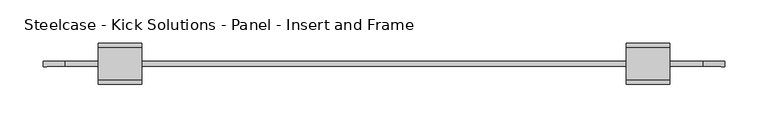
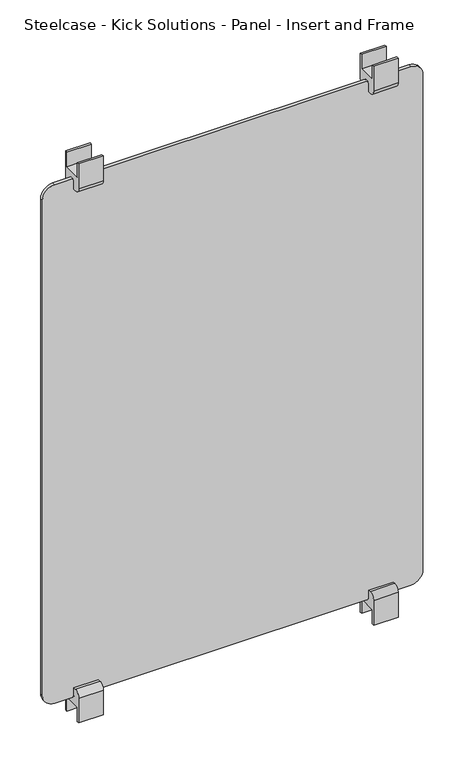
"""IFC4 building model written with IfcOpenShell, lengths in millimetres: furniture geometry, Steelcase - Kick Solutions - Panel - Insert and Frame : Laminate - 54H x 36W."""

from ifc_helpers import new_model, si_unit, point, frame, frame_2d, origin, place, context, project, spatial, polyline, circle_curve, trimmed, segment, composite_curve, outline, extrude, source, transform, mapped, element, save


def steelcase_kick_solutions_panel_insert_and_frame_3cdca3f0(model_context):
    return source(origin(), model_context, "Body", "SweptSolid", [
        extrude(outline(composite_curve([segment(polyline([(5.3821989, 1346.2), (10.144699, 1346.2), (10.144699, 1291.513221)]), True, "CONTINUOUS"), segment(trimmed(circle_curve(frame_2d((-1.6831687, 1291.513221)), 11.8278677), [point((10.144699, 1291.513221))], [point((-1.6831687, 1279.6853533))], False, "CARTESIAN"), True, "CONTINUOUS"), segment(polyline([(-1.6831687, 1279.6853533), (-7.3178012, 1279.6853533), (-7.3178012, 1295.0857521)]), True, "CONTINUOUS"), segment(trimmed(circle_curve(frame_2d((-13.667801, 1295.0857521)), 6.3499998), [point((-7.3178012, 1295.0857521))], [point((-20.0178007, 1295.0857521))], True, "CARTESIAN"), True, "CONTINUOUS"), segment(polyline([(-20.0178007, 1295.0857521), (-20.0178007, 1279.6853527), (-25.2074988, 1279.6853527)]), True, "CONTINUOUS"), segment(trimmed(circle_curve(frame_2d((-25.2074988, 1291.9581549)), 12.2728022), [point((-25.2074988, 1279.6853527))], [point((-37.480301, 1291.9581549))], False, "CARTESIAN"), True, "CONTINUOUS"), segment(polyline([(-37.480301, 1291.9581549), (-37.480301, 1346.2), (-32.7177988, 1346.2), (-32.7177988, 1314.4499758), (5.3821989, 1314.4499758), (5.3821989, 1346.2)]), True, "CONTINUOUS")], self_intersect=False)), frame((737.5148583, 0.0, 0.0), z_axis=(1.0, 0.0, 0.0), x_axis=(0.0, 1.0, 0.0)), (0.0, 0.0, 1.0), 50.8),
        extrude(outline(composite_curve([segment(polyline([(5.3821989, 120.6499576), (5.3821989, 152.3999815), (-32.7177988, 152.3999815), (-32.7177988, 120.6499576), (-37.480301, 120.6499576), (-37.480301, 174.8918024)]), True, "CONTINUOUS"), segment(trimmed(circle_curve(frame_2d((-25.2074988, 174.8918024)), 12.2728022), [point((-37.480301, 174.8918024))], [point((-25.2074988, 187.1646046))], False, "CARTESIAN"), True, "CONTINUOUS"), segment(polyline([(-25.2074988, 187.1646046), (-20.0178007, 187.1646046), (-20.0178007, 171.7642058)]), True, "CONTINUOUS"), segment(trimmed(circle_curve(frame_2d((-13.667801, 171.7642058)), 6.3499998), [point((-20.0178007, 171.7642058))], [point((-7.3178012, 171.7642058))], True, "CARTESIAN"), True, "CONTINUOUS"), segment(polyline([(-7.3178012, 171.7642058), (-7.3178012, 187.1646046), (-1.6831687, 187.1646046)]), True, "CONTINUOUS"), segment(trimmed(circle_curve(frame_2d((-1.6831687, 175.3367369)), 11.8278677), [point((-1.6831687, 187.1646046))], [point((10.144699, 175.3367369))], False, "CARTESIAN"), True, "CONTINUOUS"), segment(polyline([(10.144699, 175.3367369), (10.144699, 120.6499576), (5.3821989, 120.6499576)]), True, "CONTINUOUS")], self_intersect=False)), frame((737.5148583, 0.0, 0.0), z_axis=(1.0, 0.0, 0.0), x_axis=(0.0, 1.0, 0.0)), (0.0, 0.0, 1.0), 50.8),
        extrude(outline(composite_curve([segment(polyline([(5.3821989, 1346.2), (10.144699, 1346.2), (10.144699, 1291.5132204)]), True, "CONTINUOUS"), segment(trimmed(circle_curve(frame_2d((-1.6831684, 1291.5132204)), 11.8278674), [point((10.144699, 1291.5132204))], [point((-1.6831684, 1279.685353))], False, "CARTESIAN"), True, "CONTINUOUS"), segment(polyline([(-1.6831684, 1279.685353), (-7.3178009, 1279.685353), (-7.3178009, 1295.0857521)]), True, "CONTINUOUS"), segment(trimmed(circle_curve(frame_2d((-13.667801, 1295.0857521)), 6.3500001), [point((-7.3178009, 1295.0857521))], [point((-20.017801, 1295.0857521))], True, "CARTESIAN"), True, "CONTINUOUS"), segment(polyline([(-20.017801, 1295.0857521), (-20.017801, 1279.685353), (-25.2074991, 1279.685353)]), True, "CONTINUOUS"), segment(trimmed(circle_curve(frame_2d((-25.2074991, 1291.9581549)), 12.2728019), [point((-25.2074991, 1279.685353))], [point((-37.480301, 1291.9581549))], False, "CARTESIAN"), True, "CONTINUOUS"), segment(polyline([(-37.480301, 1291.9581549), (-37.480301, 1346.2), (-32.7177988, 1346.2), (-32.7177988, 1314.4499758), (5.3821989, 1314.4499758), (5.3821989, 1346.2)]), True, "CONTINUOUS")], self_intersect=False)), frame((126.0851417, 0.0, 0.0), z_axis=(1.0, 0.0, 0.0), x_axis=(0.0, 1.0, 0.0)), (0.0, 0.0, 1.0), 50.8),
        extrude(outline(composite_curve([segment(polyline([(5.3821989, 120.6499576), (5.3821989, 152.3999818), (-32.7177988, 152.3999818), (-32.7177988, 120.6499576), (-37.480301, 120.6499576), (-37.480301, 174.8918027)]), True, "CONTINUOUS"), segment(trimmed(circle_curve(frame_2d((-25.2074991, 174.8918027)), 12.2728019), [point((-37.480301, 174.8918027))], [point((-25.2074991, 187.1646046))], False, "CARTESIAN"), True, "CONTINUOUS"), segment(polyline([(-25.2074991, 187.1646046), (-20.017801, 187.1646046), (-20.017801, 171.7642055)]), True, "CONTINUOUS"), segment(trimmed(circle_curve(frame_2d((-13.667801, 171.7642055)), 6.3500001), [point((-20.017801, 171.7642055))], [point((-7.3178009, 171.7642055))], True, "CARTESIAN"), True, "CONTINUOUS"), segment(polyline([(-7.3178009, 171.7642055), (-7.3178009, 187.1646041), (-1.6831684, 187.1646041)]), True, "CONTINUOUS"), segment(trimmed(circle_curve(frame_2d((-1.6831684, 175.3367366)), 11.8278674), [point((-1.6831684, 187.1646041))], [point((10.144699, 175.3367366))], False, "CARTESIAN"), True, "CONTINUOUS"), segment(polyline([(10.144699, 175.3367366), (10.144699, 120.6499576), (5.3821989, 120.6499576)]), True, "CONTINUOUS")], self_intersect=False)), frame((126.0851417, 0.0, 0.0), z_axis=(1.0, 0.0, 0.0), x_axis=(0.0, 1.0, 0.0)), (0.0, 0.0, 1.0), 50.8),
        extrude(outline(composite_curve([segment(polyline([(1301.7499516, 826.4148583), (1301.7499516, 87.9851417)]), True, "CONTINUOUS"), segment(trimmed(circle_curve(frame_2d((1276.3499516, 87.9851417)), 25.4), [point((1301.7499516, 87.9851417))], [point((1276.3499516, 62.5851417))], False, "CARTESIAN"), True, "CONTINUOUS"), segment(polyline([(1276.3499516, 62.5851417), (190.5000061, 62.5851417)]), True, "CONTINUOUS"), segment(trimmed(circle_curve(frame_2d((190.5000061, 87.9851417)), 25.4), [point((190.5000061, 62.5851417))], [point((165.1000061, 87.9851417))], False, "CARTESIAN"), True, "CONTINUOUS"), segment(polyline([(165.1000061, 87.9851417), (165.1000061, 826.4148583)]), True, "CONTINUOUS"), segment(trimmed(circle_curve(frame_2d((190.5000061, 826.4148583)), 25.4), [point((165.1000061, 826.4148583))], [point((190.5000061, 851.8148583))], False, "CARTESIAN"), True, "CONTINUOUS"), segment(polyline([(190.5000061, 851.8148583), (1276.3499516, 851.8148583)]), True, "CONTINUOUS"), segment(trimmed(circle_curve(frame_2d((1276.3499516, 826.4148583)), 25.4), [point((1276.3499516, 851.8148583))], [point((1301.7499516, 826.4148583))], False, "CARTESIAN"), True, "CONTINUOUS")], self_intersect=False)), frame((0.0, -16.8428004, 0.0), z_axis=(0.0, 1.0, 0.0), x_axis=(0.0, 0.0, 1.0)), (0.0, 0.0, 1.0), 6.3499985),
    ])


if __name__ == "__main__":
    model = new_model("IFC4")
    model_context = context("Model", 3, world=origin())
    ifc_project = project(units=[si_unit("LENGTHUNIT", "METRE", prefix="MILLI")], contexts=[model_context])
    site = spatial("IfcSite", under=ifc_project)
    building = spatial("IfcBuilding", under=site)
    placement = place(None, origin())
    steelcase_kick_solutions_panel_insert_and_frame_shape = steelcase_kick_solutions_panel_insert_and_frame_3cdca3f0(model_context)
    element("IfcFurniture", 1, ObjectType="Steelcase - Kick Solutions - Panel - Insert and Frame : Laminate - 54H x 36W", at=placement, inside=building, context=model_context, shape_type="MappedRepresentation", body=[
        mapped(steelcase_kick_solutions_panel_insert_and_frame_shape, transform((0.0, 0.0, 0.0), x_axis=(1.0, 0.0, 0.0), y_axis=(0.0, 1.0, 0.0), z_axis=(0.0, 0.0, 1.0))),
    ])
    save(model, "model.ifc")
